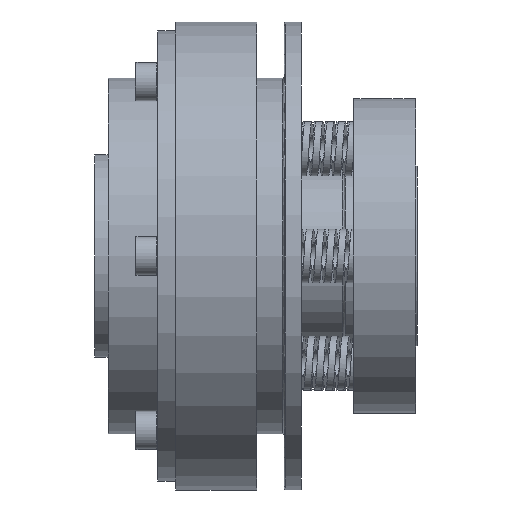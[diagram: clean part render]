
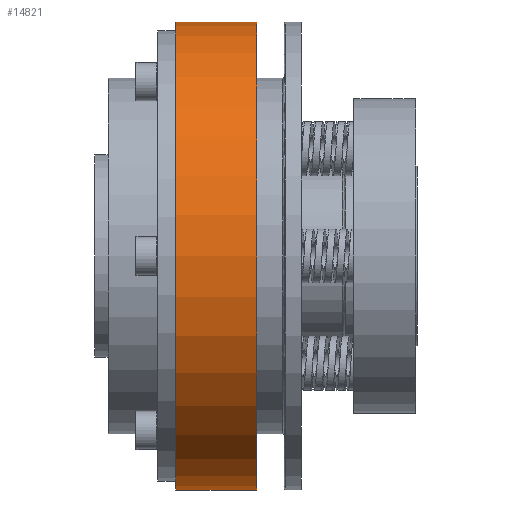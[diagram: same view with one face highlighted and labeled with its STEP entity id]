
A CAD part, front view. The second image highlights one B-rep face of the part: STEP entity #14821.
In plain terms, the highlighted cylindrical face has radius 52 mm (diameter 104 mm), a partial arc.
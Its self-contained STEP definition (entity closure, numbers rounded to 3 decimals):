
#113 = CARTESIAN_POINT ( 'NONE',  ( 18., 0., 52. ) ) ;
#1316 = VECTOR ( 'NONE', #4444, 1000. ) ;
#2190 = CARTESIAN_POINT ( 'NONE',  ( 36., 0., -52. ) ) ;
#4444 = DIRECTION ( 'NONE',  ( -1., 0., 0. ) ) ;
#4540 = CARTESIAN_POINT ( 'NONE',  ( 0., 0., -52. ) ) ;
#5098 = ORIENTED_EDGE ( 'NONE', *, *, #22698, .T. ) ;
#5832 = ORIENTED_EDGE ( 'NONE', *, *, #23323, .F. ) ;
#6379 = DIRECTION ( 'NONE',  ( -1., 0., 0. ) ) ;
#8277 = VERTEX_POINT ( 'NONE', #2190 ) ;
#9250 = EDGE_CURVE ( 'NONE', #18857, #23427, #9738, .T. ) ;
#9300 = LINE ( 'NONE', #4540, #20921 ) ;
#9329 = DIRECTION ( 'NONE',  ( 1., 0., 0. ) ) ;
#9738 = LINE ( 'NONE', #10428, #1316 ) ;
#10170 = DIRECTION ( 'NONE',  ( 1., 0., 0. ) ) ;
#10428 = CARTESIAN_POINT ( 'NONE',  ( 0., 0., 52. ) ) ;
#11035 = DIRECTION ( 'NONE',  ( 0., 0., 1. ) ) ;
#11921 = AXIS2_PLACEMENT_3D ( 'NONE', #20464, #10170, #26736 ) ;
#13410 = EDGE_CURVE ( 'NONE', #8277, #17623, #9300, .T. ) ;
#14071 = CARTESIAN_POINT ( 'NONE',  ( 36., 0., 52. ) ) ;
#14821 = ADVANCED_FACE ( 'NONE', ( #19932 ), #22833, .T. ) ;
#14832 = CARTESIAN_POINT ( 'NONE',  ( 0., 0., 0. ) ) ;
#14859 = AXIS2_PLACEMENT_3D ( 'NONE', #23793, #9329, #11035 ) ;
#16253 = AXIS2_PLACEMENT_3D ( 'NONE', #14832, #19143, #25226 ) ;
#17222 = CIRCLE ( 'NONE', #14859, 52. ) ;
#17623 = VERTEX_POINT ( 'NONE', #22904 ) ;
#18535 = CIRCLE ( 'NONE', #11921, 52. ) ;
#18857 = VERTEX_POINT ( 'NONE', #14071 ) ;
#19143 = DIRECTION ( 'NONE',  ( -1., 0., 0. ) ) ;
#19932 = FACE_OUTER_BOUND ( 'NONE', #25494, .T. ) ;
#20464 = CARTESIAN_POINT ( 'NONE',  ( 36., 0., 0. ) ) ;
#20619 = ORIENTED_EDGE ( 'NONE', *, *, #13410, .F. ) ;
#20921 = VECTOR ( 'NONE', #6379, 1000. ) ;
#22698 = EDGE_CURVE ( 'NONE', #23427, #17623, #17222, .T. ) ;
#22833 = CYLINDRICAL_SURFACE ( 'NONE', #16253, 52. ) ;
#22904 = CARTESIAN_POINT ( 'NONE',  ( 18., 0., -52. ) ) ;
#23323 = EDGE_CURVE ( 'NONE', #18857, #8277, #18535, .T. ) ;
#23427 = VERTEX_POINT ( 'NONE', #113 ) ;
#23793 = CARTESIAN_POINT ( 'NONE',  ( 18., 0., 0. ) ) ;
#25226 = DIRECTION ( 'NONE',  ( 0., 0., 1. ) ) ;
#25494 = EDGE_LOOP ( 'NONE', ( #20619, #5832, #25589, #5098 ) ) ;
#25589 = ORIENTED_EDGE ( 'NONE', *, *, #9250, .T. ) ;
#26736 = DIRECTION ( 'NONE',  ( 0., 0., 1. ) ) ;
